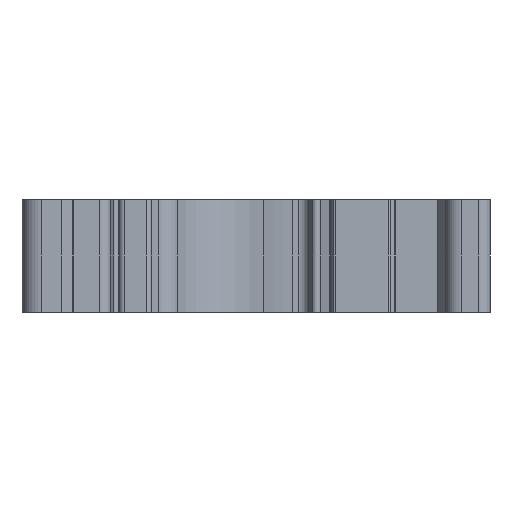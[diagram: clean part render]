
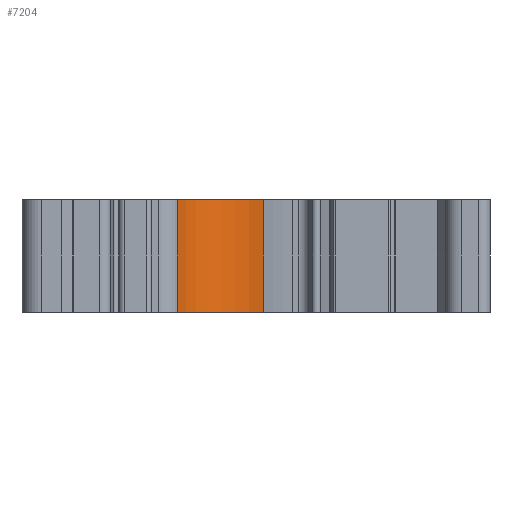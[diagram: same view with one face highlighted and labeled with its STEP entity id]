
A CAD part, front view. The second image highlights one B-rep face of the part: STEP entity #7204.
In plain terms, the highlighted cylindrical face has radius 7.697 mm (diameter 15.393 mm), a partial arc.
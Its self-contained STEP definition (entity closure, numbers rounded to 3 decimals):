
#598=CARTESIAN_POINT('',(9.455,181.117,0.));
#599=DIRECTION('',(0.,0.,-1.));
#600=DIRECTION('',(-0.851,0.526,0.));
#601=AXIS2_PLACEMENT_3D('',#598,#599,#600);
#1247=CARTESIAN_POINT('',(9.455,181.117,10.2));
#1248=DIRECTION('',(0.,0.,1.));
#1249=DIRECTION('',(0.174,0.985,0.));
#1250=AXIS2_PLACEMENT_3D('',#1247,#1248,#1249);
#2668=DIRECTION('',(0.,0.,1.));
#2669=VECTOR('',#2668,10.2);
#2670=CARTESIAN_POINT('',(2.908,185.163,0.));
#2671=LINE('',#2670,#2669);
#2672=DIRECTION('',(0.,0.,1.));
#2673=VECTOR('',#2672,10.2);
#2674=CARTESIAN_POINT('',(10.793,188.697,0.));
#2675=LINE('',#2674,#2673);
#3158=CARTESIAN_POINT('',(2.908,185.163,0.));
#3159=VERTEX_POINT('',#3158);
#3160=CARTESIAN_POINT('',(10.793,188.697,0.));
#3161=VERTEX_POINT('',#3160);
#3482=CARTESIAN_POINT('',(10.793,188.697,10.2));
#3483=VERTEX_POINT('',#3482);
#3484=CARTESIAN_POINT('',(2.908,185.163,10.2));
#3485=VERTEX_POINT('',#3484);
#7192=CARTESIAN_POINT('',(9.455,181.117,0.));
#7193=DIRECTION('',(0.,0.,1.));
#7194=DIRECTION('',(1.,0.,0.));
#7195=AXIS2_PLACEMENT_3D('',#7192,#7193,#7194);
#7196=CYLINDRICAL_SURFACE('',#7195,7.697);
#7197=ORIENTED_EDGE('',*,*,#4048,.F.);
#7198=ORIENTED_EDGE('',*,*,#7187,.T.);
#7199=ORIENTED_EDGE('',*,*,#4434,.F.);
#7201=ORIENTED_EDGE('',*,*,#7200,.F.);
#7202=EDGE_LOOP('',(#7197,#7198,#7199,#7201));
#7203=FACE_OUTER_BOUND('',#7202,.F.);
#7204=ADVANCED_FACE('',(#7203),#7196,.F.);
#602=CIRCLE('',#601,7.697);
#1251=CIRCLE('',#1250,7.697);
#4048=EDGE_CURVE('',#3159,#3161,#602,.T.);
#4434=EDGE_CURVE('',#3483,#3485,#1251,.T.);
#7187=EDGE_CURVE('',#3159,#3485,#2671,.T.);
#7200=EDGE_CURVE('',#3161,#3483,#2675,.T.);
